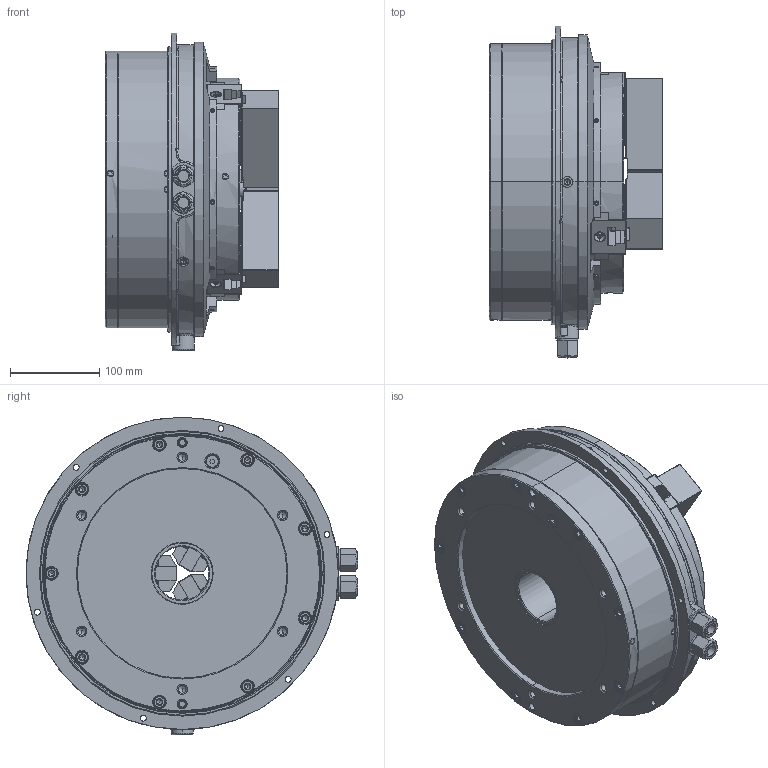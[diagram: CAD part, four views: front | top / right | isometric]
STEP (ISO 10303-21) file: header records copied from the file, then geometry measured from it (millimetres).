
FILE_DESCRIPTION (( 'STEP AP214' ), '1' );
FILE_NAME ('DEV-UVE250K-HOL.STEP', '2024-10-03T00:34:08', ( '' ), ( '' ), 'SwSTEP 2.0', 'SolidWorks 2022', '' );
FILE_SCHEMA (( 'AUTOMOTIVE_DESIGN' ));
Length unit declared in the file: millimetre
Products named in the file (6): DEV-UVE250K-HOL; Part2^DEV-UVE250K-クミタテ; Copy of 61P401335^DEV-UVE250K-クミタテ; Copy of 0030112030^DEV-UVE250K-クミタテ; Copy of P31633^DEV-UVE250K-クミタテ; Copy of 0693000003^DEV-UVE250K-クミタテ
Assembly tree (18 placements, depth 2):
  DEV-UVE250K-HOL
    Copy of P31633^DEV-UVE250K-クミタテ  x3
    Copy of 61P401335^DEV-UVE250K-クミタテ  x6
    Copy of 0030112030^DEV-UVE250K-クミタテ  x6
    Copy of 0693000003^DEV-UVE250K-クミタテ  x2
    Part2^DEV-UVE250K-クミタテ
Bounding box: 194.45 x 372 x 356 mm (x, y, z)
Volume: 10551619.7 mm3; surface area: 604840.2 mm2
Topology: 19 solids, 52 shells, 5439 faces, 15083 edges, 9829 vertices
Faces by surface type: plane 3361, cylinder 1150, cone 597, bspline 241, torus 68, sphere 22
Entity records: 151351 total; most frequent: CARTESIAN_POINT 45929, ORIENTED_EDGE 23828, DIRECTION 19223, EDGE_CURVE 11914, VECTOR 7859, LINE 7859, VERTEX_POINT 7813, AXIS2_PLACEMENT_3D 5682
